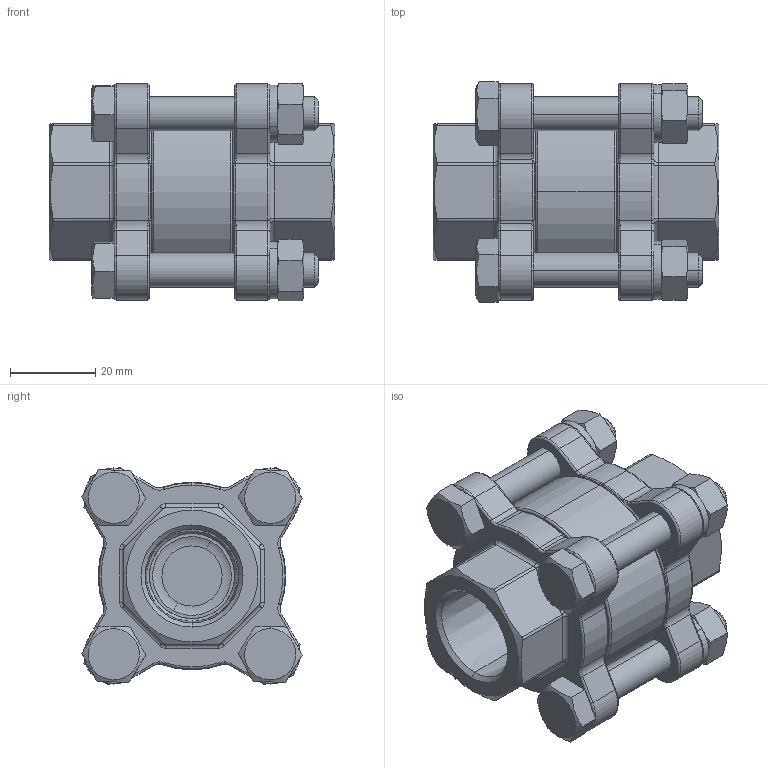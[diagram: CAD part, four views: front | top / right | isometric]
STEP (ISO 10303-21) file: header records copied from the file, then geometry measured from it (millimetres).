
FILE_DESCRIPTION (( 'STEP AP203' ), '1' );
FILE_NAME ('SLCW-DN20.STEP', '2017-04-11T03:37:47', ( 'user' ), ( 'Microsoft' ), 'SwSTEP 2.0', 'SolidWorks 2013', '' );
FILE_SCHEMA (( 'CONFIG_CONTROL_DESIGN' ));
Length unit declared in the file: millimetre
Products named in the file (8): YSHM8-48; YWSM8; YNM8; SLCW-DN20; SA70T00TWDAQX0; SP71T0006DA0; SP71T0002DA0; SB05T00DACN0
Assembly tree (17 placements, depth 2):
  SLCW-DN20
    SA70T00TWDAQX0
    SP71T0006DA0
    SP71T0002DA0
    SB05T00DACN0  x2
    YSHM8-48  x4
    YWSM8  x4
    YNM8  x4
Bounding box: 67.2 x 51.77 x 51.22 mm (x, y, z)
Volume: 73305 mm3; surface area: 38705.8 mm2
Topology: 17 solids, 17 shells, 663 faces, 1584 edges, 954 vertices
Faces by surface type: cylinder 220, plane 173, torus 128, cone 102, bspline 40
Entity records: 13291 total; most frequent: CARTESIAN_POINT 3447, DIRECTION 1953, ORIENTED_EDGE 1798, EDGE_CURVE 899, AXIS2_PLACEMENT_3D 826, VERTEX_POINT 540, CIRCLE 466, EDGE_LOOP 397
